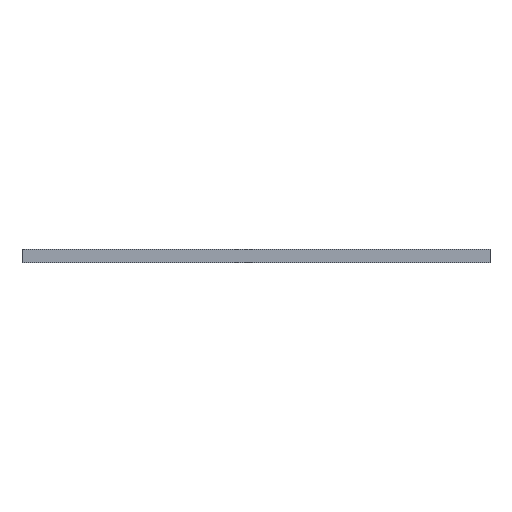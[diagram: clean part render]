
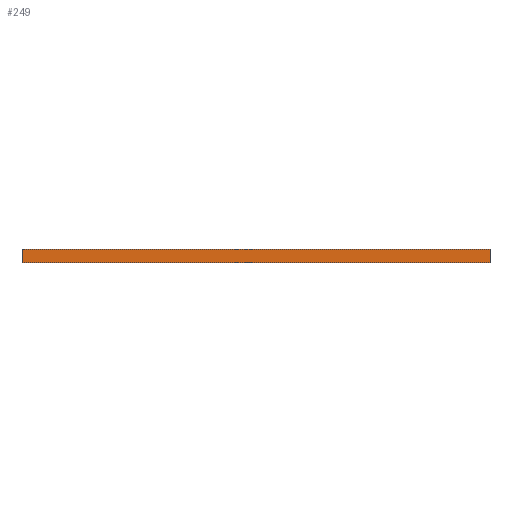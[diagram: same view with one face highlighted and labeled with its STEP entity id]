
A CAD part, front view. The second image highlights one B-rep face of the part: STEP entity #249.
In plain terms, the highlighted planar face has unit normal (0, -1, 0).
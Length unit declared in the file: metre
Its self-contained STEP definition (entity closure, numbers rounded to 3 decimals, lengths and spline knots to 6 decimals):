
#25 = CARTESIAN_POINT ( 'NONE',  ( -0.035, -0.0625, -0.002 ) ) ;
#50 = EDGE_CURVE ( 'NONE', #1296, #907, #605, .T. ) ;
#85 = CARTESIAN_POINT ( 'NONE',  ( -0.035, -0.0625, -0.002 ) ) ;
#161 = DIRECTION ( 'NONE',  ( 0., -1., 0. ) ) ;
#175 = PLANE ( 'NONE',  #268 ) ;
#186 = VECTOR ( 'NONE', #1397, 1. ) ;
#249 = ADVANCED_FACE ( 'NONE', ( #433 ), #175, .T. ) ;
#268 = AXIS2_PLACEMENT_3D ( 'NONE', #1035, #161, #1422 ) ;
#287 = EDGE_LOOP ( 'NONE', ( #914, #471, #598, #1528 ) ) ;
#298 = DIRECTION ( 'NONE',  ( 0., 0., 1. ) ) ;
#314 = VECTOR ( 'NONE', #298, 1. ) ;
#329 = VECTOR ( 'NONE', #1085, 1. ) ;
#342 = EDGE_CURVE ( 'NONE', #971, #907, #1171, .T. ) ;
#433 = FACE_OUTER_BOUND ( 'NONE', #287, .T. ) ;
#471 = ORIENTED_EDGE ( 'NONE', *, *, #958, .F. ) ;
#598 = ORIENTED_EDGE ( 'NONE', *, *, #1554, .T. ) ;
#605 = LINE ( 'NONE', #944, #1592 ) ;
#649 = CARTESIAN_POINT ( 'NONE',  ( 0.035, -0.0625, -0.002 ) ) ;
#719 = LINE ( 'NONE', #85, #329 ) ;
#803 = LINE ( 'NONE', #1378, #186 ) ;
#907 = VERTEX_POINT ( 'NONE', #988 ) ;
#914 = ORIENTED_EDGE ( 'NONE', *, *, #50, .F. ) ;
#919 = CARTESIAN_POINT ( 'NONE',  ( 0.035, -0.0625, -0.002 ) ) ;
#944 = CARTESIAN_POINT ( 'NONE',  ( -0.035, -0.0625, 0. ) ) ;
#958 = EDGE_CURVE ( 'NONE', #1304, #1296, #803, .T. ) ;
#971 = VERTEX_POINT ( 'NONE', #649 ) ;
#988 = CARTESIAN_POINT ( 'NONE',  ( 0.035, -0.0625, 0. ) ) ;
#1012 = CARTESIAN_POINT ( 'NONE',  ( -0.035, -0.0625, 0. ) ) ;
#1035 = CARTESIAN_POINT ( 'NONE',  ( -0.035, -0.0625, -0.002 ) ) ;
#1085 = DIRECTION ( 'NONE',  ( 1., 0., 0. ) ) ;
#1171 = LINE ( 'NONE', #919, #314 ) ;
#1296 = VERTEX_POINT ( 'NONE', #1012 ) ;
#1304 = VERTEX_POINT ( 'NONE', #25 ) ;
#1378 = CARTESIAN_POINT ( 'NONE',  ( -0.035, -0.0625, -0.002 ) ) ;
#1397 = DIRECTION ( 'NONE',  ( 0., 0., 1. ) ) ;
#1422 = DIRECTION ( 'NONE',  ( 0., 0., -1. ) ) ;
#1528 = ORIENTED_EDGE ( 'NONE', *, *, #342, .T. ) ;
#1554 = EDGE_CURVE ( 'NONE', #1304, #971, #719, .T. ) ;
#1561 = DIRECTION ( 'NONE',  ( 1., 0., 0. ) ) ;
#1592 = VECTOR ( 'NONE', #1561, 1. ) ;
